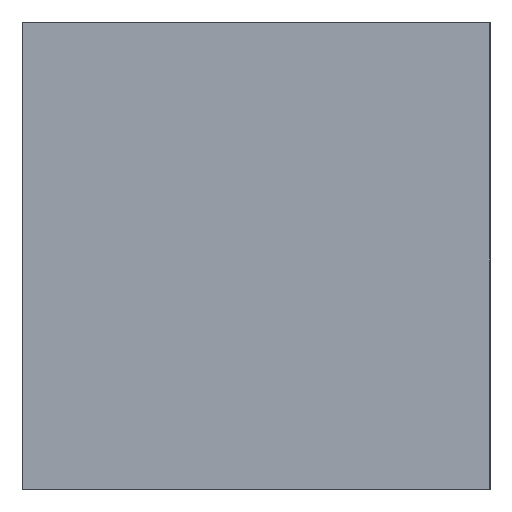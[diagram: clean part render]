
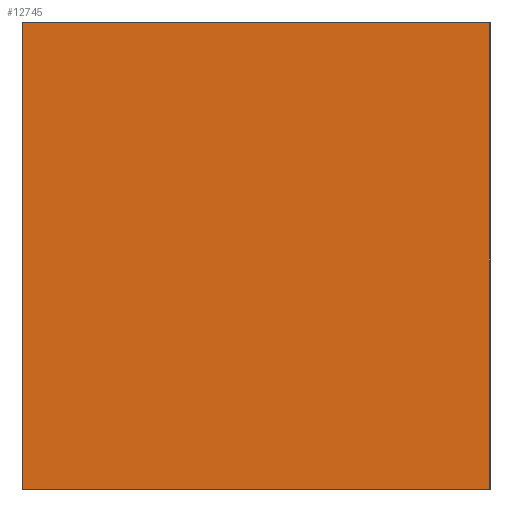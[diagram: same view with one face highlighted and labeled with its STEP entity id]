
A CAD part, top view. The second image highlights one B-rep face of the part: STEP entity #12745.
In plain terms, the highlighted planar face has unit normal (0, 0, 1).
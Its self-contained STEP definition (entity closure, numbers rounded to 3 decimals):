
#12706=CARTESIAN_POINT('',(0.,0.,20.));
#12707=DIRECTION('',(1.,0.,0.));
#12708=DIRECTION('',(0.,0.,1.));
#12709=AXIS2_PLACEMENT_3D('',#12706,#12708,#12707);
#12710=PLANE('',#12709);
#12711=CARTESIAN_POINT('',(398.5,-398.5,20.));
#12712=VERTEX_POINT('',#12711);
#12713=CARTESIAN_POINT('',(398.5,398.5,20.));
#12714=VERTEX_POINT('',#12713);
#12715=CARTESIAN_POINT('',(398.5,-398.5,20.));
#12716=DIRECTION('',(0.,1.,0.));
#12717=VECTOR('',#12716,797.);
#12718=LINE('',#12715,#12717);
#12719=EDGE_CURVE('',#12712,#12714,#12718,.T.);
#12720=ORIENTED_EDGE('E118',*,*,#12719,.T.);
#12721=CARTESIAN_POINT('',(-398.5,398.5,20.));
#12722=VERTEX_POINT('',#12721);
#12723=CARTESIAN_POINT('',(398.5,398.5,20.));
#12724=DIRECTION('',(-1.,0.,0.));
#12725=VECTOR('',#12724,797.);
#12726=LINE('',#12723,#12725);
#12727=EDGE_CURVE('',#12714,#12722,#12726,.T.);
#12728=ORIENTED_EDGE('E119',*,*,#12727,.T.);
#12729=CARTESIAN_POINT('',(-398.5,-398.5,20.));
#12730=VERTEX_POINT('',#12729);
#12731=CARTESIAN_POINT('',(-398.5,398.5,20.));
#12732=DIRECTION('',(0.,-1.,0.));
#12733=VECTOR('',#12732,797.);
#12734=LINE('',#12731,#12733);
#12735=EDGE_CURVE('',#12722,#12730,#12734,.T.);
#12736=ORIENTED_EDGE('E120',*,*,#12735,.T.);
#12737=CARTESIAN_POINT('',(-398.5,-398.5,20.));
#12738=DIRECTION('',(1.,0.,0.));
#12739=VECTOR('',#12738,797.);
#12740=LINE('',#12737,#12739);
#12741=EDGE_CURVE('',#12730,#12712,#12740,.T.);
#12742=ORIENTED_EDGE('E117',*,*,#12741,.T.);
#12743=EDGE_LOOP('',(#12720,#12728,#12736,#12742));
#12744=FACE_OUTER_BOUND('',#12743,.T.);
#12745=ADVANCED_FACE('F2',(#12744),#12710,.T.);
